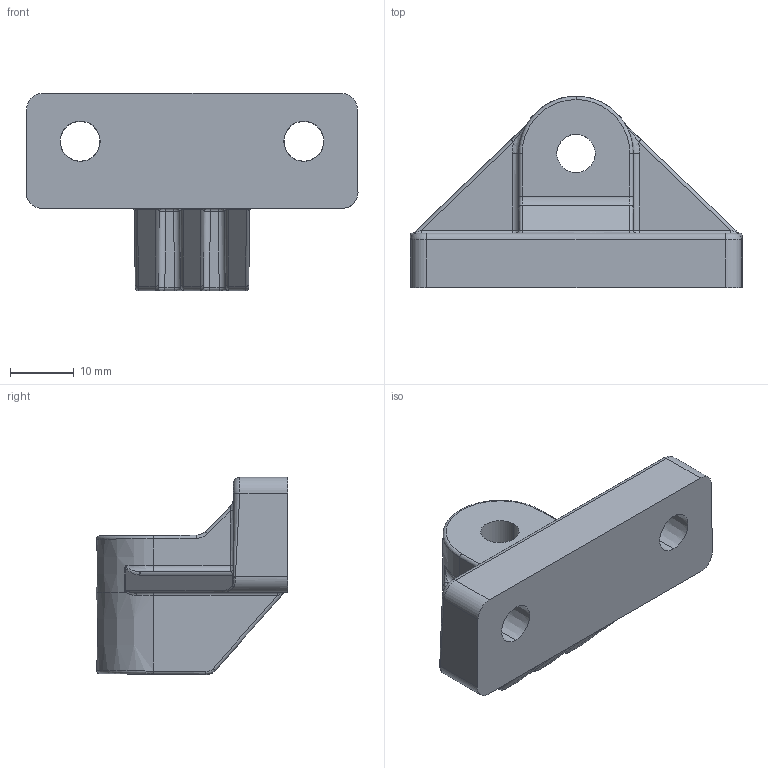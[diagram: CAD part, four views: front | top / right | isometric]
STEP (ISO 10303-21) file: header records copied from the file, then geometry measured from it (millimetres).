
FILE_DESCRIPTION (( 'STEP AP203' ), '1' );
FILE_NAME ('013.100.045.STEP', '2022-04-12T09:32:15', ( '' ), ( '' ), 'SwSTEP 2.0', 'SolidWorks 2021', '' );
FILE_SCHEMA (( 'CONFIG_CONTROL_DESIGN' ));
Length unit declared in the file: millimetre
Products named in the file (1): 013.100.045
Bounding box: 51.96 x 29.97 x 30.89 mm (x, y, z)
Volume: 14888.7 mm3; surface area: 6211.8 mm2
Topology: 1 solids, 1 shells, 157 faces, 374 edges, 219 vertices
Faces by surface type: bspline 60, cylinder 51, plane 28, cone 10, torus 8
Entity records: 5931 total; most frequent: CARTESIAN_POINT 2776, ORIENTED_EDGE 744, DIRECTION 537, EDGE_CURVE 372, VERTEX_POINT 219, AXIS2_PLACEMENT_3D 212, EDGE_LOOP 165, FACE_OUTER_BOUND 157
